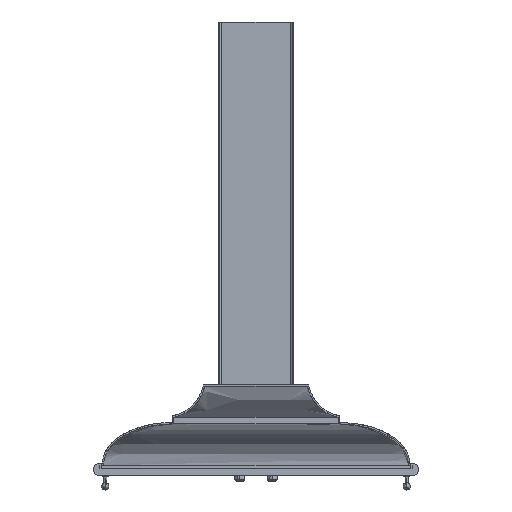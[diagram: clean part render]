
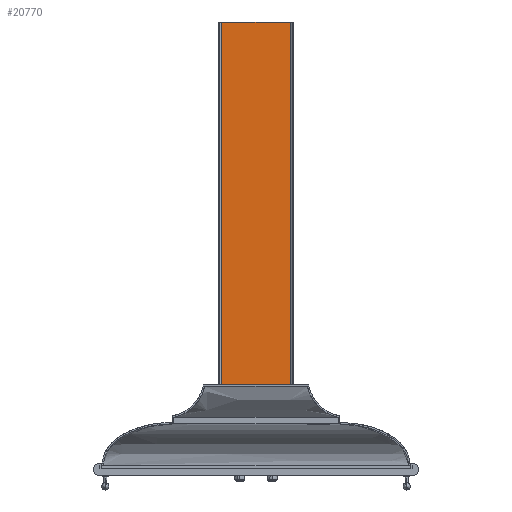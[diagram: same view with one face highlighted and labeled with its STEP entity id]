
A CAD part, left-side view. The second image highlights one B-rep face of the part: STEP entity #20770.
In plain terms, the highlighted planar face has unit normal (-1, 0, 0).
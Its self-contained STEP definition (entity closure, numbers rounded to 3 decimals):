
#20622=CARTESIAN_POINT('Vertex',(184.3,-94.,178.55)) ;
#20625=CARTESIAN_POINT('Line Origine',(184.3,0.,178.55)) ;
#20629=CARTESIAN_POINT('Vertex',(184.3,94.,178.55)) ;
#20721=CARTESIAN_POINT('Line Origine',(184.3,94.,678.55)) ;
#20725=CARTESIAN_POINT('Vertex',(184.3,94.,1178.55)) ;
#20747=CARTESIAN_POINT('Axis2P3D Location',(184.3,94.,178.55)) ;
#20752=CARTESIAN_POINT('Line Origine',(184.3,-94.,678.55)) ;
#20756=CARTESIAN_POINT('Vertex',(184.3,-94.,1178.55)) ;
#20759=CARTESIAN_POINT('Line Origine',(184.3,0.,1178.55)) ;
#20626=DIRECTION('Vector Direction',(0.,1.,0.)) ;
#20722=DIRECTION('Vector Direction',(0.,0.,1.)) ;
#20748=DIRECTION('Axis2P3D Direction',(-1.,0.,0.)) ;
#20749=DIRECTION('Axis2P3D XDirection',(0.,-1.,0.)) ;
#20753=DIRECTION('Vector Direction',(0.,0.,1.)) ;
#20760=DIRECTION('Vector Direction',(0.,-1.,0.)) ;
#20750=AXIS2_PLACEMENT_3D('Plane Axis2P3D',#20747,#20748,#20749) ;
#20765=ORIENTED_EDGE('',*,*,#20758,.T.) ;
#20766=ORIENTED_EDGE('',*,*,#20763,.T.) ;
#20767=ORIENTED_EDGE('',*,*,#20727,.F.) ;
#20768=ORIENTED_EDGE('',*,*,#20631,.F.) ;
#20627=VECTOR('Line Direction',#20626,1.) ;
#20723=VECTOR('Line Direction',#20722,1.) ;
#20754=VECTOR('Line Direction',#20753,1.) ;
#20761=VECTOR('Line Direction',#20760,1.) ;
#20770=ADVANCED_FACE('GR Camino',(#20769),#20751,.T.) ;
#20631=EDGE_CURVE('',#20623,#20630,#20628,.T.) ;
#20727=EDGE_CURVE('',#20630,#20726,#20724,.T.) ;
#20758=EDGE_CURVE('',#20623,#20757,#20755,.T.) ;
#20763=EDGE_CURVE('',#20757,#20726,#20762,.F.) ;
#20764=EDGE_LOOP('',(#20765,#20766,#20767,#20768)) ;
#20769=FACE_OUTER_BOUND('',#20764,.T.) ;
#20628=LINE('Line',#20625,#20627) ;
#20724=LINE('Line',#20721,#20723) ;
#20755=LINE('Line',#20752,#20754) ;
#20762=LINE('Line',#20759,#20761) ;
#20751=PLANE('',#20750) ;
#20623=VERTEX_POINT('',#20622) ;
#20630=VERTEX_POINT('',#20629) ;
#20726=VERTEX_POINT('',#20725) ;
#20757=VERTEX_POINT('',#20756) ;
